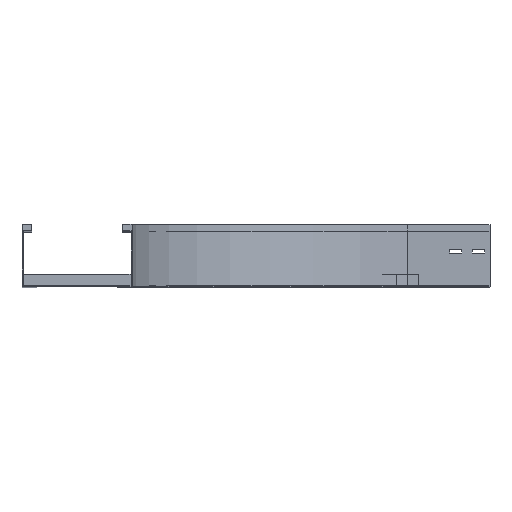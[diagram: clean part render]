
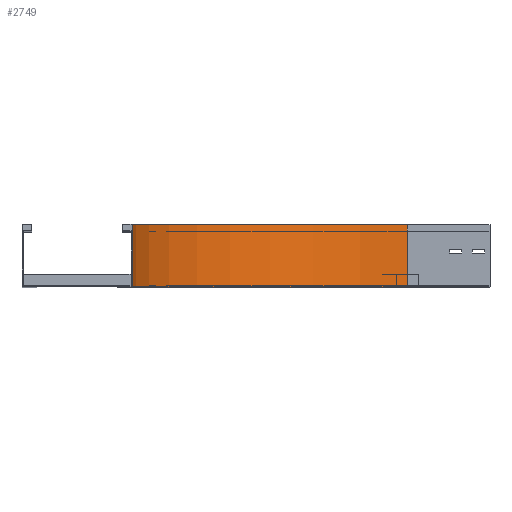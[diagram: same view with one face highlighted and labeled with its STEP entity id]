
A CAD part, top view. The second image highlights one B-rep face of the part: STEP entity #2749.
In plain terms, the highlighted cylindrical face has radius 500 mm (diameter 1000 mm), a partial arc.
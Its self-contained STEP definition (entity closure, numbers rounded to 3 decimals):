
#169 = DIRECTION ( 'NONE',  ( 0., -1., 0. ) ) ;
#294 = CARTESIAN_POINT ( 'NONE',  ( 500., 112.5, -650. ) ) ;
#473 = DIRECTION ( 'NONE',  ( -1., 0., 0. ) ) ;
#564 = CARTESIAN_POINT ( 'NONE',  ( 500., 0., -650. ) ) ;
#695 = VECTOR ( 'NONE', #875, 1000. ) ;
#709 = CIRCLE ( 'NONE', #1062, 500. ) ;
#791 = DIRECTION ( 'NONE',  ( 0., -1., 0. ) ) ;
#832 = FACE_OUTER_BOUND ( 'NONE', #883, .T. ) ;
#875 = DIRECTION ( 'NONE',  ( 0., 1., 0. ) ) ;
#883 = EDGE_LOOP ( 'NONE', ( #1229, #2798, #4173, #3308 ) ) ;
#941 = CARTESIAN_POINT ( 'NONE',  ( 0., 0., -150. ) ) ;
#1062 = AXIS2_PLACEMENT_3D ( 'NONE', #3639, #169, #2469 ) ;
#1068 = EDGE_CURVE ( 'NONE', #2785, #2661, #1098, .T. ) ;
#1098 = CIRCLE ( 'NONE', #4081, 500. ) ;
#1135 = CARTESIAN_POINT ( 'NONE',  ( 0., 112.5, -150. ) ) ;
#1229 = ORIENTED_EDGE ( 'NONE', *, *, #1068, .F. ) ;
#1468 = DIRECTION ( 'NONE',  ( 0., 0., -1. ) ) ;
#1606 = AXIS2_PLACEMENT_3D ( 'NONE', #1833, #791, #1468 ) ;
#1625 = LINE ( 'NONE', #1949, #3474 ) ;
#1812 = DIRECTION ( 'NONE',  ( 0., -1., 0. ) ) ;
#1833 = CARTESIAN_POINT ( 'NONE',  ( 500., 0., -150. ) ) ;
#1876 = CARTESIAN_POINT ( 'NONE',  ( 500., 0., -650. ) ) ;
#1949 = CARTESIAN_POINT ( 'NONE',  ( 0., 0., -150. ) ) ;
#2469 = DIRECTION ( 'NONE',  ( -1., 0., 0. ) ) ;
#2661 = VERTEX_POINT ( 'NONE', #294 ) ;
#2749 = ADVANCED_FACE ( 'NONE', ( #832 ), #3483, .F. ) ;
#2766 = CARTESIAN_POINT ( 'NONE',  ( 500., 112.5, -150. ) ) ;
#2785 = VERTEX_POINT ( 'NONE', #1135 ) ;
#2798 = ORIENTED_EDGE ( 'NONE', *, *, #2974, .F. ) ;
#2824 = VERTEX_POINT ( 'NONE', #564 ) ;
#2974 = EDGE_CURVE ( 'NONE', #3541, #2785, #1625, .T. ) ;
#3043 = EDGE_CURVE ( 'NONE', #3541, #2824, #709, .T. ) ;
#3308 = ORIENTED_EDGE ( 'NONE', *, *, #3827, .T. ) ;
#3474 = VECTOR ( 'NONE', #4166, 1000. ) ;
#3483 = CYLINDRICAL_SURFACE ( 'NONE', #1606, 500. ) ;
#3541 = VERTEX_POINT ( 'NONE', #941 ) ;
#3639 = CARTESIAN_POINT ( 'NONE',  ( 500., 0., -150. ) ) ;
#3827 = EDGE_CURVE ( 'NONE', #2824, #2661, #3908, .T. ) ;
#3908 = LINE ( 'NONE', #1876, #695 ) ;
#4081 = AXIS2_PLACEMENT_3D ( 'NONE', #2766, #1812, #473 ) ;
#4166 = DIRECTION ( 'NONE',  ( 0., 1., 0. ) ) ;
#4173 = ORIENTED_EDGE ( 'NONE', *, *, #3043, .T. ) ;
